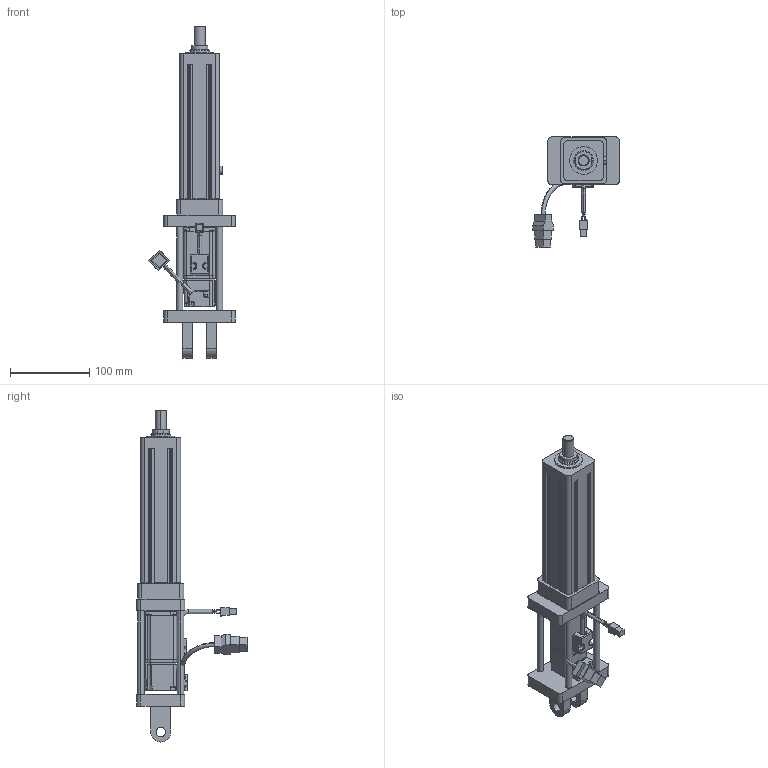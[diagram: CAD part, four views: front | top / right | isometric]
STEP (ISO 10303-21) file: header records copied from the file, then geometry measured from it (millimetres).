
FILE_DESCRIPTION (( 'STEP AP203' ), '1' );
FILE_NAME ('S1眻盄綴帣蝓假蚾.STEP', '2024-05-27T05:07:40', ( '' ), ( '' ), 'SwSTEP 2.0', 'SolidWorks 2018', '' );
FILE_SCHEMA (( 'CONFIG_CONTROL_DESIGN' ));
Length unit declared in the file: millimetre
Products named in the file (3): ECMA-CX0401ES-40框號系列機種-100W低慣量系列; S1眻盄帣蝓; S1眻盄綴帣蝓假蚾
Assembly tree (2 placements, depth 2):
  S1眻盄綴帣蝓假蚾
    S1眻盄帣蝓
    ECMA-CX0401ES-40框號系列機種-100W低慣量系列
Bounding box: 109.14 x 138.63 x 418 mm (x, y, z)
Volume: 642563.8 mm3; surface area: 179427.2 mm2
Topology: 2 solids, 16 shells, 696 faces, 1708 edges, 1068 vertices
Faces by surface type: plane 325, cylinder 261, cone 46, torus 31, sphere 17, bspline 16
Entity records: 23492 total; most frequent: CARTESIAN_POINT 6931, ORIENTED_EDGE 3412, DIRECTION 3311, EDGE_CURVE 1706, AXIS2_PLACEMENT_3D 1162, VERTEX_POINT 1068, LINE 987, VECTOR 987
